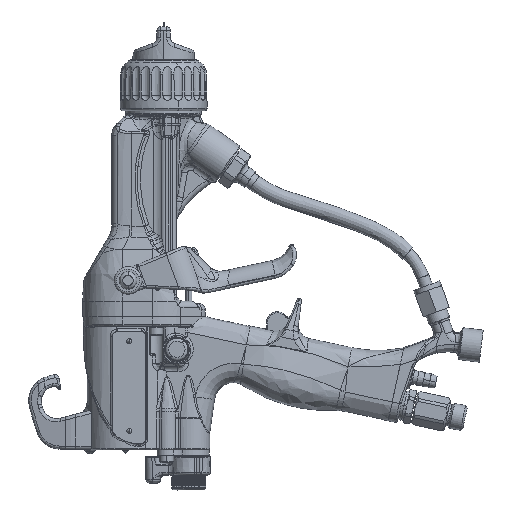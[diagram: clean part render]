
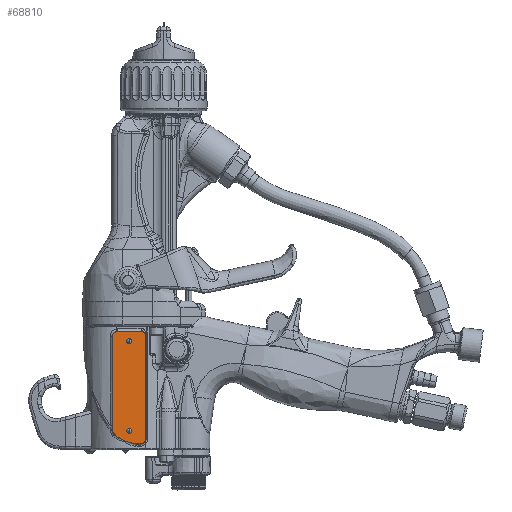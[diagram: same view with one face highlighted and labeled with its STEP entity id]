
A CAD part, left-side view. The second image highlights one B-rep face of the part: STEP entity #68810.
In plain terms, the highlighted planar face has unit normal (-1, 0.003, 0).
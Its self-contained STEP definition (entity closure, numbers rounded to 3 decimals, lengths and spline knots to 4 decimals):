
#60585=CARTESIAN_POINT('',(-0.7542,0.4558,-5.2));
#60586=DIRECTION('',(-1.,0.003,0.));
#60587=DIRECTION('',(-0.003,-1.,0.));
#60588=AXIS2_PLACEMENT_3D('',#60585,#60586,#60587);
#60590=DIRECTION('',(0.,0.,1.));
#60591=VECTOR('',#60590,2.062);
#60592=CARTESIAN_POINT('',(-0.7544,0.3573,-7.262));
#60593=LINE('',#60592,#60591);
#60594=CARTESIAN_POINT('',(-0.7542,0.4558,-7.262));
#60595=DIRECTION('',(-1.,0.003,0.));
#60596=DIRECTION('',(0.,0.,-1.));
#60597=AXIS2_PLACEMENT_3D('',#60594,#60595,#60596);
#60599=DIRECTION('',(0.003,1.,0.));
#60600=VECTOR('',#60599,0.087);
#60601=CARTESIAN_POINT('',(-0.7542,0.4558,
-7.3605));
#60602=LINE('',#60601,#60600);
#60603=CARTESIAN_POINT('',(-0.7539,0.5428,-6.722));
#60604=DIRECTION('',(-1.,0.003,0.));
#60605=DIRECTION('',(0.002,0.713,-0.701));
#60606=AXIS2_PLACEMENT_3D('',#60603,#60604,#60605);
#60608=CARTESIAN_POINT('',(-0.7529,0.9208,
-7.0935));
#60609=DIRECTION('',(-1.,0.003,0.));
#60610=DIRECTION('',(0.003,1.,0.));
#60611=AXIS2_PLACEMENT_3D('',#60608,#60609,#60610);
#60613=DIRECTION('',(0.,0.,-1.));
#60614=VECTOR('',#60613,1.8935);
#60615=CARTESIAN_POINT('',(-0.7526,1.0292,-5.2));
#60616=LINE('',#60615,#60614);
#60617=CARTESIAN_POINT('',(-0.7528,0.9308,-5.2));
#60618=DIRECTION('',(-1.,0.003,0.));
#60619=DIRECTION('',(0.,0.,1.));
#60620=AXIS2_PLACEMENT_3D('',#60617,#60618,#60619);
#60622=DIRECTION('',(-0.003,-1.,0.));
#60623=VECTOR('',#60622,0.475);
#60624=CARTESIAN_POINT('',(-0.7528,0.9308,
-5.1015));
#60625=LINE('',#60624,#60623);
#65261=CARTESIAN_POINT('',(-0.7544,0.3573,-5.2));
#65262=CARTESIAN_POINT('',(-0.7542,0.4558,
-5.1015));
#65263=VERTEX_POINT('',#65261);
#65264=VERTEX_POINT('',#65262);
#65265=CARTESIAN_POINT('',(-0.7528,0.9308,
-5.1015));
#65266=VERTEX_POINT('',#65265);
#65267=CARTESIAN_POINT('',(-0.7526,1.0292,-5.2));
#65268=VERTEX_POINT('',#65267);
#65269=CARTESIAN_POINT('',(-0.7526,1.0292,
-7.0935));
#65270=VERTEX_POINT('',#65269);
#65271=CARTESIAN_POINT('',(-0.7527,0.9981,
-7.1695));
#65272=VERTEX_POINT('',#65271);
#65273=CARTESIAN_POINT('',(-0.7539,0.5428,
-7.3605));
#65274=VERTEX_POINT('',#65273);
#65275=CARTESIAN_POINT('',(-0.7542,0.4558,
-7.3605));
#65276=VERTEX_POINT('',#65275);
#65277=CARTESIAN_POINT('',(-0.7544,0.3573,-7.262));
#65278=VERTEX_POINT('',#65277);
#68785=CARTESIAN_POINT('',(-0.7551,0.1308,-4.53));
#68786=DIRECTION('',(1.,-0.003,0.));
#68787=DIRECTION('',(0.,0.,-1.));
#68788=AXIS2_PLACEMENT_3D('',#68785,#68786,#68787);
#68789=PLANE('',#68788);
#68791=ORIENTED_EDGE('',*,*,#68790,.F.);
#68793=ORIENTED_EDGE('',*,*,#68792,.F.);
#68795=ORIENTED_EDGE('',*,*,#68794,.F.);
#68797=ORIENTED_EDGE('',*,*,#68796,.T.);
#68799=ORIENTED_EDGE('',*,*,#68798,.F.);
#68801=ORIENTED_EDGE('',*,*,#68800,.F.);
#68803=ORIENTED_EDGE('',*,*,#68802,.F.);
#68805=ORIENTED_EDGE('',*,*,#68804,.F.);
#68807=ORIENTED_EDGE('',*,*,#68806,.T.);
#68808=EDGE_LOOP('',(#68791,#68793,#68795,#68797,#68799,#68801,#68803,#68805,
#68807));
#68809=FACE_OUTER_BOUND('',#68808,.F.);
#68810=ADVANCED_FACE('',(#68809),#68789,.F.);
#60589=CIRCLE('',#60588,0.0985);
#60598=CIRCLE('',#60597,0.0985);
#60607=CIRCLE('',#60606,0.6385);
#60612=CIRCLE('',#60611,0.1085);
#60621=CIRCLE('',#60620,0.0985);
#68790=EDGE_CURVE('',#65263,#65264,#60589,.T.);
#68792=EDGE_CURVE('',#65278,#65263,#60593,.T.);
#68794=EDGE_CURVE('',#65276,#65278,#60598,.T.);
#68796=EDGE_CURVE('',#65276,#65274,#60602,.T.);
#68798=EDGE_CURVE('',#65272,#65274,#60607,.T.);
#68800=EDGE_CURVE('',#65270,#65272,#60612,.T.);
#68802=EDGE_CURVE('',#65268,#65270,#60616,.T.);
#68804=EDGE_CURVE('',#65266,#65268,#60621,.T.);
#68806=EDGE_CURVE('',#65266,#65264,#60625,.T.);
